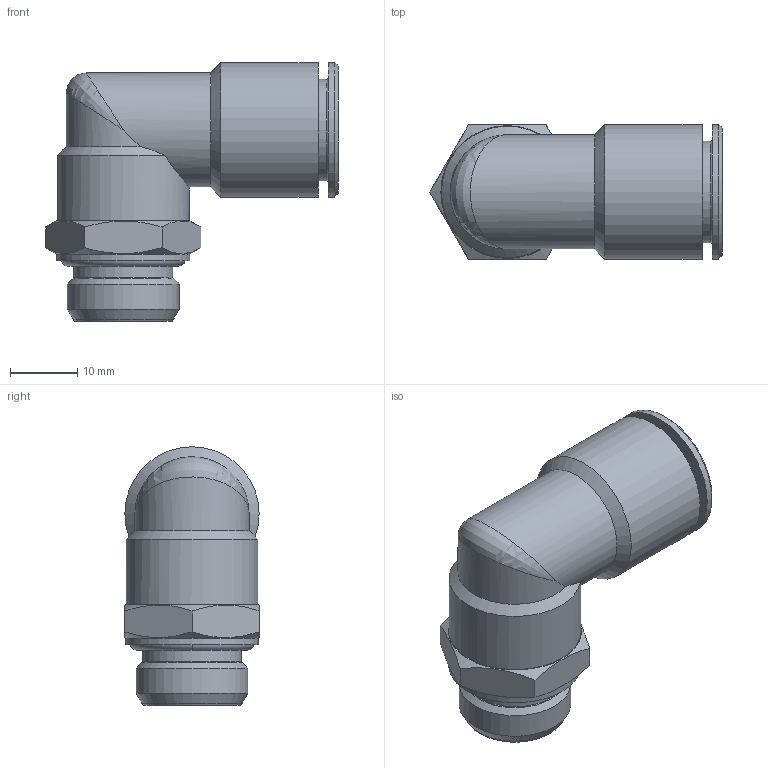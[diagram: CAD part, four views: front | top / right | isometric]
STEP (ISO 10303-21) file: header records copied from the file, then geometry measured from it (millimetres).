
FILE_DESCRIPTION(('Bauteilbeschreibung','HiCAD-Model','HiCAD-STEP-TRANSLATION','Bauteilbeschreibung'),'2;1');
FILE_NAME('B:/ABGLEICH/ZEICHNUNGEN/STEP FÜR INTERNET/STEP/IPSO 022/202213_IPSO_022_14_3-8.STP','2012-02-08T13:18:31+00:00',('Konstrukteur'),('Konstrukteur Firma GmbH'),' HiCAD neXt 2008, Step 3.1.1401.2J ','HiCAD neXt 2008','confidential');
FILE_SCHEMA(('AUTOMOTIVE_DESIGN { 1 2 10303 214 0 1 1 1 }'));
Length unit declared in the file: millimetre
Products named in the file (7): A02213_IPSO_022_14_3_8; OR 14X1_78; DR14_5; R202213; A14607; A146070; G 3_8
Assembly tree (6 placements, depth 3):
  A02213_IPSO_022_14_3_8
    OR 14X1_78
    DR14_5
    R202213
    A14607
    A146070
      G 3_8
Bounding box: 43.55 x 20 x 38.5 mm (x, y, z)
Volume: 7875 mm3; surface area: 9951.6 mm2
Topology: 5 solids, 5 shells, 79 faces, 174 edges, 105 vertices
Faces by surface type: cylinder 25, cone 22, plane 20, torus 10, sphere 1, bspline 1
Full cylindrical faces by diameter (mm): 11 x1, 12 x1, 14.15 x1, 14.3 x1, 14.75 x1, 14.95 x2, 15.1 x1, 15.2 x1, 15.8 x2, 16.2 x1, 16.5 x1, 16.662 x1, 17 x3, 17.3 x1, 18.1 x1, 19.6 x1, 19.8 x1, 20 x2
Entity records: 3320 total; most frequent: CARTESIAN_POINT 1270, DIRECTION 338, ORIENTED_EDGE 208, AXIS2_PLACEMENT_3D 165, EDGE_LOOP 142, EDGE_CURVE 104, COLOUR_RGB 92, PRESENTATION_STYLE_ASSIGNMENT 92
